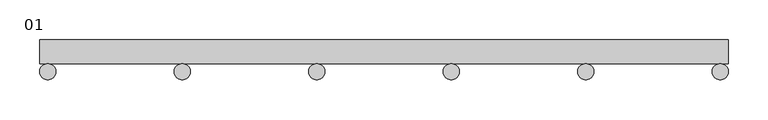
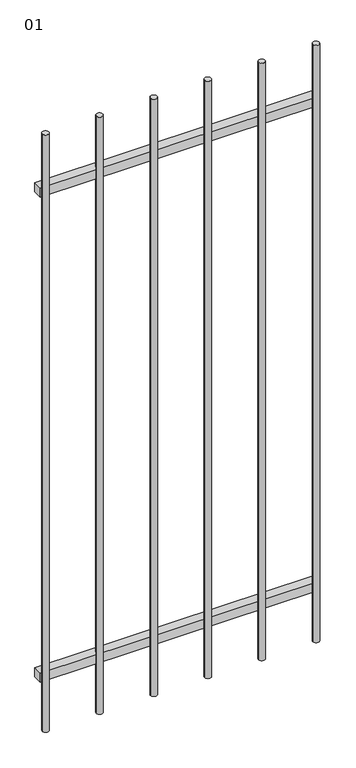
"""IFC4 building model written with IfcOpenShell, lengths in millimetres: plate geometry, pnl - PORTÃO DE ABRIR 01 - 1 FOLHA : 01."""

from ifc_helpers import new_model, si_unit, point, frame, frame_2d, origin, place, context, project, spatial, polyline, circle_curve, trimmed, segment, composite_curve, outline, extrude, source, transform, mapped, element, save


def plate_01_d532bac2(model_context):
    return source(origin(), model_context, "Body", "SweptSolid", [
        extrude(outline(composite_curve([segment(trimmed(circle_curve(frame_2d((253.5, 0.0)), 10.0), [point((243.5, 0.0))], [point((263.5, 0.0))], False, "CARTESIAN"), True, "CONTINUOUS"), segment(trimmed(circle_curve(frame_2d((253.5, 0.0)), 10.0), [point((263.5, 0.0))], [point((243.5, 0.0))], False, "CARTESIAN"), True, "CONTINUOUS")], self_intersect=False)), frame((0.0, 0.0, 30.0), z_axis=(0.0, 0.0, 1.0), x_axis=(1.0, 0.0, 0.0)), (0.0, 0.0, 1.0), 1970.0),
        extrude(outline(composite_curve([segment(trimmed(circle_curve(frame_2d((84.5, 0.0)), 10.0), [point((74.5, 0.0))], [point((94.5, 0.0))], False, "CARTESIAN"), True, "CONTINUOUS"), segment(trimmed(circle_curve(frame_2d((84.5, 0.0)), 10.0), [point((94.5, 0.0))], [point((74.5, 0.0))], False, "CARTESIAN"), True, "CONTINUOUS")], self_intersect=False)), frame((0.0, 0.0, 30.0), z_axis=(0.0, 0.0, 1.0), x_axis=(1.0, 0.0, 0.0)), (0.0, 0.0, 1.0), 1970.0),
        extrude(outline(composite_curve([segment(trimmed(circle_curve(frame_2d((-84.5, 0.0)), 10.0), [point((-94.5, 0.0))], [point((-74.5, 0.0))], False, "CARTESIAN"), True, "CONTINUOUS"), segment(trimmed(circle_curve(frame_2d((-84.5, 0.0)), 10.0), [point((-74.5, 0.0))], [point((-94.5, 0.0))], False, "CARTESIAN"), True, "CONTINUOUS")], self_intersect=False)), frame((0.0, 0.0, 30.0), z_axis=(0.0, 0.0, 1.0), x_axis=(1.0, 0.0, 0.0)), (0.0, 0.0, 1.0), 1970.0),
        extrude(outline(composite_curve([segment(trimmed(circle_curve(frame_2d((-253.5, 0.0)), 10.0), [point((-263.5, 0.0))], [point((-243.5, 0.0))], False, "CARTESIAN"), True, "CONTINUOUS"), segment(trimmed(circle_curve(frame_2d((-253.5, 0.0)), 10.0), [point((-243.5, 0.0))], [point((-263.5, 0.0))], False, "CARTESIAN"), True, "CONTINUOUS")], self_intersect=False)), frame((0.0, 0.0, 30.0), z_axis=(0.0, 0.0, 1.0), x_axis=(1.0, 0.0, 0.0)), (0.0, 0.0, 1.0), 1970.0),
        extrude(outline(composite_curve([segment(trimmed(circle_curve(frame_2d((-422.5, 0.0)), 10.0), [point((-432.5, 0.0))], [point((-412.5, 0.0))], False, "CARTESIAN"), True, "CONTINUOUS"), segment(trimmed(circle_curve(frame_2d((-422.5, 0.0)), 10.0), [point((-412.5, 0.0))], [point((-432.5, 0.0))], False, "CARTESIAN"), True, "CONTINUOUS")], self_intersect=False)), frame((0.0, 0.0, 30.0), z_axis=(0.0, 0.0, 1.0), x_axis=(1.0, 0.0, 0.0)), (0.0, 0.0, 1.0), 1970.0),
        extrude(outline(composite_curve([segment(trimmed(circle_curve(frame_2d((422.5, 0.0)), 10.0), [point((412.5, 0.0))], [point((432.5, 0.0))], False, "CARTESIAN"), True, "CONTINUOUS"), segment(trimmed(circle_curve(frame_2d((422.5, 0.0)), 10.0), [point((432.5, 0.0))], [point((412.5, 0.0))], False, "CARTESIAN"), True, "CONTINUOUS")], self_intersect=False)), frame((0.0, 0.0, 30.0), z_axis=(0.0, 0.0, 1.0), x_axis=(1.0, 0.0, 0.0)), (0.0, 0.0, 1.0), 1970.0),
        extrude(outline(polyline([(-432.5, 40.0), (432.5, 40.0), (432.5, 10.0), (-432.5, 10.0), (-432.5, 40.0)])), frame((0.0, 0.0, 185.0), z_axis=(0.0, 0.0, 1.0), x_axis=(1.0, 0.0, 0.0)), (0.0, 0.0, 1.0), 30.0),
        extrude(outline(polyline([(-432.5, 40.0), (432.5, 40.0), (432.5, 10.0), (-432.5, 10.0), (-432.5, 40.0)])), frame((0.0, 0.0, 1785.0), z_axis=(0.0, 0.0, 1.0), x_axis=(1.0, 0.0, 0.0)), (0.0, 0.0, 1.0), 30.0),
    ])


if __name__ == "__main__":
    model = new_model("IFC4")
    model_context = context("Model", 3, world=origin())
    ifc_project = project(units=[si_unit("LENGTHUNIT", "METRE", prefix="MILLI")], contexts=[model_context])
    site = spatial("IfcSite", under=ifc_project)
    building = spatial("IfcBuilding", under=site)
    placement = place(None, origin())
    plate_01_shape = plate_01_d532bac2(model_context)
    element("IfcPlate", 1, ObjectType="pnl - PORTÃO DE ABRIR 01 - 1 FOLHA : 01", at=placement, inside=building, context=model_context, shape_type="MappedRepresentation", body=[
        mapped(plate_01_shape, transform((0.0, 0.0, 0.0), x_axis=(1.0, 0.0, 0.0), y_axis=(0.0, 1.0, 0.0), z_axis=(0.0, 0.0, 1.0))),
    ])
    save(model, "model.ifc")
